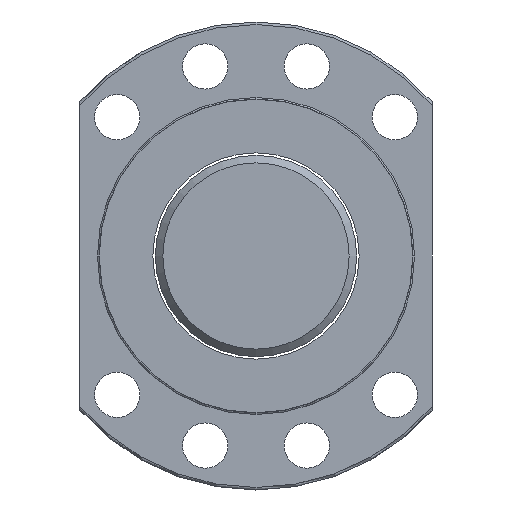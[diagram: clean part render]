
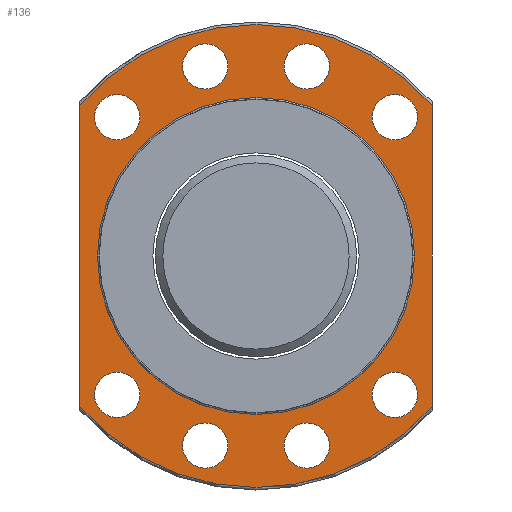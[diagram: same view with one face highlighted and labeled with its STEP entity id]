
A CAD part, left-side view. The second image highlights one B-rep face of the part: STEP entity #136.
In plain terms, the highlighted planar face has unit normal (-1, 0, 0).
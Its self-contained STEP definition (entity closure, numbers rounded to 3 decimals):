
#136=ADVANCED_FACE('',(#221,#222,#223,#224,#225,#226,#227,#228,#229,#185),
#173,.T.);
#173=PLANE('',#644);
#185=FACE_OUTER_BOUND('',#290,.T.);
#205=LINE('',#905,#213);
#206=LINE('',#909,#214);
#213=VECTOR('',#735,1.);
#214=VECTOR('',#738,1.);
#221=FACE_BOUND('',#281,.T.);
#222=FACE_BOUND('',#282,.T.);
#223=FACE_BOUND('',#283,.T.);
#224=FACE_BOUND('',#284,.T.);
#225=FACE_BOUND('',#285,.T.);
#226=FACE_BOUND('',#286,.T.);
#227=FACE_BOUND('',#287,.T.);
#228=FACE_BOUND('',#288,.T.);
#229=FACE_BOUND('',#289,.T.);
#281=EDGE_LOOP('',(#361));
#282=EDGE_LOOP('',(#362));
#283=EDGE_LOOP('',(#363));
#284=EDGE_LOOP('',(#364));
#285=EDGE_LOOP('',(#365));
#286=EDGE_LOOP('',(#366));
#287=EDGE_LOOP('',(#367));
#288=EDGE_LOOP('',(#368));
#289=EDGE_LOOP('',(#369));
#290=EDGE_LOOP('',(#370,#371,#372,#373));
#361=ORIENTED_EDGE('',*,*,#530,.T.);
#362=ORIENTED_EDGE('',*,*,#531,.F.);
#363=ORIENTED_EDGE('',*,*,#532,.F.);
#364=ORIENTED_EDGE('',*,*,#533,.F.);
#365=ORIENTED_EDGE('',*,*,#534,.F.);
#366=ORIENTED_EDGE('',*,*,#535,.F.);
#367=ORIENTED_EDGE('',*,*,#536,.F.);
#368=ORIENTED_EDGE('',*,*,#537,.F.);
#369=ORIENTED_EDGE('',*,*,#538,.F.);
#370=ORIENTED_EDGE('',*,*,#539,.F.);
#371=ORIENTED_EDGE('',*,*,#540,.T.);
#372=ORIENTED_EDGE('',*,*,#541,.F.);
#373=ORIENTED_EDGE('',*,*,#542,.F.);
#479=VERTEX_POINT('',#885);
#480=VERTEX_POINT('',#887);
#481=VERTEX_POINT('',#889);
#482=VERTEX_POINT('',#891);
#483=VERTEX_POINT('',#893);
#484=VERTEX_POINT('',#895);
#485=VERTEX_POINT('',#897);
#486=VERTEX_POINT('',#899);
#487=VERTEX_POINT('',#901);
#488=VERTEX_POINT('',#903);
#489=VERTEX_POINT('',#904);
#490=VERTEX_POINT('',#906);
#491=VERTEX_POINT('',#908);
#530=EDGE_CURVE('',#479,#479,#589,.T.);
#531=EDGE_CURVE('',#480,#480,#590,.T.);
#532=EDGE_CURVE('',#481,#481,#591,.T.);
#533=EDGE_CURVE('',#482,#482,#592,.T.);
#534=EDGE_CURVE('',#483,#483,#593,.T.);
#535=EDGE_CURVE('',#484,#484,#594,.T.);
#536=EDGE_CURVE('',#485,#485,#595,.T.);
#537=EDGE_CURVE('',#486,#486,#596,.T.);
#538=EDGE_CURVE('',#487,#487,#597,.T.);
#539=EDGE_CURVE('',#488,#489,#598,.T.);
#540=EDGE_CURVE('',#488,#490,#205,.T.);
#541=EDGE_CURVE('',#491,#490,#599,.T.);
#542=EDGE_CURVE('',#489,#491,#206,.T.);
#589=CIRCLE('',#633,31.5);
#590=CIRCLE('',#634,4.5);
#591=CIRCLE('',#635,4.5);
#592=CIRCLE('',#636,4.5);
#593=CIRCLE('',#637,4.5);
#594=CIRCLE('',#638,4.5);
#595=CIRCLE('',#639,4.5);
#596=CIRCLE('',#640,4.5);
#597=CIRCLE('',#641,4.5);
#598=CIRCLE('',#642,46.);
#599=CIRCLE('',#643,46.);
#633=AXIS2_PLACEMENT_3D('',#884,#715,#716);
#634=AXIS2_PLACEMENT_3D('',#886,#717,#718);
#635=AXIS2_PLACEMENT_3D('',#888,#719,#720);
#636=AXIS2_PLACEMENT_3D('',#890,#721,#722);
#637=AXIS2_PLACEMENT_3D('',#892,#723,#724);
#638=AXIS2_PLACEMENT_3D('',#894,#725,#726);
#639=AXIS2_PLACEMENT_3D('',#896,#727,#728);
#640=AXIS2_PLACEMENT_3D('',#898,#729,#730);
#641=AXIS2_PLACEMENT_3D('',#900,#731,#732);
#642=AXIS2_PLACEMENT_3D('',#902,#733,#734);
#643=AXIS2_PLACEMENT_3D('',#907,#736,#737);
#644=AXIS2_PLACEMENT_3D('',#910,#739,#740);
#715=DIRECTION('',(1.,0.,0.));
#716=DIRECTION('',(0.,1.,0.));
#717=DIRECTION('',(-1.,0.,0.));
#718=DIRECTION('',(0.,-1.,0.));
#719=DIRECTION('',(-1.,0.,0.));
#720=DIRECTION('',(0.,-1.,0.));
#721=DIRECTION('',(-1.,0.,0.));
#722=DIRECTION('',(0.,-1.,0.));
#723=DIRECTION('',(-1.,0.,0.));
#724=DIRECTION('',(0.,-1.,0.));
#725=DIRECTION('',(-1.,0.,0.));
#726=DIRECTION('',(0.,-1.,0.));
#727=DIRECTION('',(-1.,0.,0.));
#728=DIRECTION('',(0.,-1.,0.));
#729=DIRECTION('',(-1.,0.,0.));
#730=DIRECTION('',(0.,-1.,0.));
#731=DIRECTION('',(-1.,0.,0.));
#732=DIRECTION('',(0.,-1.,0.));
#733=DIRECTION('',(1.,0.,0.));
#734=DIRECTION('',(0.,1.,0.));
#735=DIRECTION('',(0.,0.,-1.));
#736=DIRECTION('',(1.,0.,0.));
#737=DIRECTION('',(0.,1.,0.));
#738=DIRECTION('',(0.,0.,-1.));
#739=DIRECTION('',(-1.,0.,0.));
#740=DIRECTION('',(0.,-1.,0.));
#884=CARTESIAN_POINT('',(6.81,0.,0.));
#885=CARTESIAN_POINT('',(6.81,31.5,0.));
#886=CARTESIAN_POINT('',(6.81,10.094,37.671));
#887=CARTESIAN_POINT('',(6.81,5.594,37.671));
#888=CARTESIAN_POINT('',(6.81,-10.094,37.671));
#889=CARTESIAN_POINT('',(6.81,-14.594,37.671));
#890=CARTESIAN_POINT('',(6.81,-10.094,-37.671));
#891=CARTESIAN_POINT('',(6.81,-14.594,-37.671));
#892=CARTESIAN_POINT('',(6.81,10.094,-37.671));
#893=CARTESIAN_POINT('',(6.81,5.594,-37.671));
#894=CARTESIAN_POINT('',(6.81,-27.577,-27.577));
#895=CARTESIAN_POINT('',(6.81,-32.077,-27.577));
#896=CARTESIAN_POINT('',(6.81,27.577,-27.577));
#897=CARTESIAN_POINT('',(6.81,23.077,-27.577));
#898=CARTESIAN_POINT('',(6.81,-27.577,27.577));
#899=CARTESIAN_POINT('',(6.81,-32.077,27.577));
#900=CARTESIAN_POINT('',(6.81,27.577,27.577));
#901=CARTESIAN_POINT('',(6.81,23.077,27.577));
#902=CARTESIAN_POINT('',(6.81,0.,0.));
#903=CARTESIAN_POINT('',(6.81,35.,29.85));
#904=CARTESIAN_POINT('',(6.81,-35.,29.85));
#905=CARTESIAN_POINT('',(6.81,35.,0.));
#906=CARTESIAN_POINT('',(6.81,35.,-29.85));
#907=CARTESIAN_POINT('',(6.81,0.,0.));
#908=CARTESIAN_POINT('',(6.81,-35.,-29.85));
#909=CARTESIAN_POINT('',(6.81,-35.,0.));
#910=CARTESIAN_POINT('',(6.81,38.75,0.));
